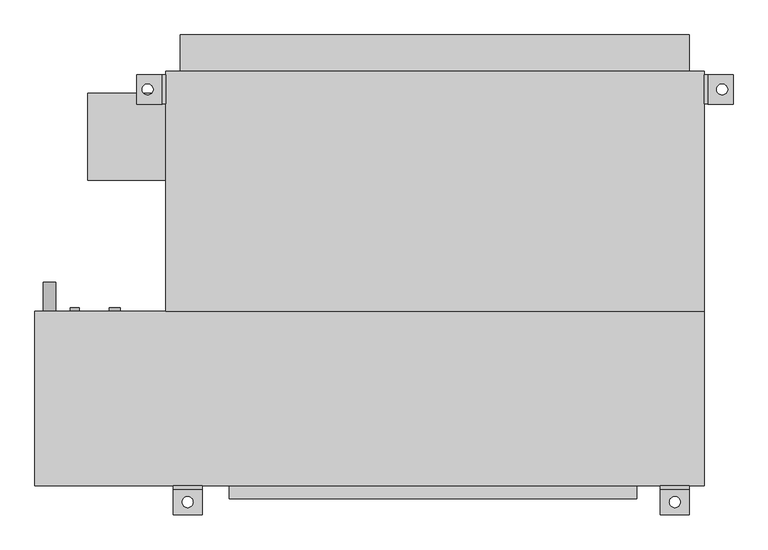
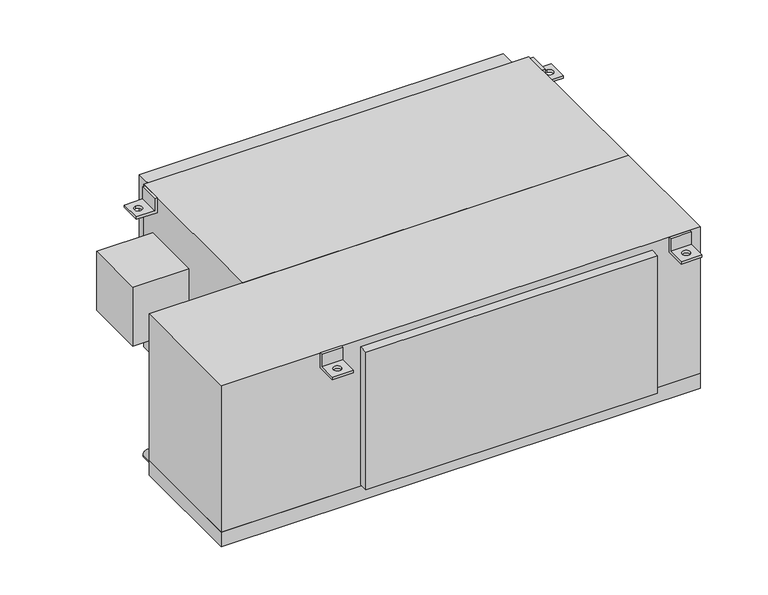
"""IFC4 building model written with IfcOpenShell, lengths in millimetres: proxy geometry, Concealed_High_Capacity_Horizontal_Fan_Coil_Unit_With_Plenum_-_42DCA_-_CARRIER_-_4-Pipe_ValveEnclosure_LH_2022 : Size 12 - 277v/60Hz/1Ph - 6/2 Coil."""

from ifc_helpers import new_model, si_unit, point, frame, frame_2d, origin, place, context, project, spatial, polyline, circle_curve, trimmed, segment, composite_curve, outline, extrude, source, transform, mapped, element, save
from ifc_brep_helpers import plane_surface, revolved_surface, advanced_brep


def mechanical_equipment_f5be78a4(model_context):
    return source(origin(), model_context, "Body", "SolidModel", [
        advanced_brep(
        [(596.9, -390.525, 0.0), (596.9, -396.875, 0.0), (596.9, -396.875, -31.75), (596.9, -441.325, -31.75), (596.9, -441.325, -38.1), (596.9, -390.525, -38.1), (546.1, -390.525, 0.0), (546.1, -390.525, -38.1), (546.1, -441.325, -38.1), (546.1, -441.325, -31.75), (546.1, -396.875, -31.75), (546.1, -396.875, 0.0), (561.975, -419.1, -31.75), (581.025, -419.1, -31.75), (581.025, -419.1, -38.1), (561.975, -419.1, -38.1)],
        [
            (0, 1),
            (1, 2),
            (2, 3),
            (3, 4),
            (4, 5),
            (5, 0),
            (6, 7),
            (7, 8),
            (8, 9),
            (9, 10),
            (10, 11),
            (11, 6),
            (0, 6),
            (11, 1),
            (10, 2),
            (9, 3),
            (12, 13, circle_curve(frame((571.5, -419.1, -31.75), z_axis=(0.0, 0.0, -1.0), x_axis=(1.0, 0.0, 0.0)), 9.525)),
            (13, 12, circle_curve(frame((571.5, -419.1, -31.75), z_axis=(0.0, 0.0, -1.0), x_axis=(1.0, 0.0, 0.0)), 9.525)),
            (8, 4),
            (7, 5),
            (14, 15, circle_curve(frame((571.5, -419.1, -38.1), z_axis=(0.0, 0.0, 1.0), x_axis=(1.0, 0.0, 0.0)), 9.525)),
            (15, 14, circle_curve(frame((571.5, -419.1, -38.1), z_axis=(0.0, 0.0, 1.0), x_axis=(1.0, 0.0, 0.0)), 9.525)),
            (12, 15),
            (14, 13),
        ],
        [
            plane_surface(frame((596.9, -396.875, 0.0), z_axis=(1.0, 0.0, 0.0), x_axis=(0.0, -1.0, 0.0))),
            plane_surface(frame((546.1, -396.875, 0.0), z_axis=(-1.0, 0.0, 0.0), x_axis=(0.0, 1.0, 0.0))),
            plane_surface(frame((596.9, -390.525, 0.0), z_axis=(0.0, 0.0, 1.0), x_axis=(-1.0, 0.0, 0.0))),
            plane_surface(frame((596.9, -396.875, 0.0), z_axis=(0.0, -1.0, 0.0), x_axis=(-1.0, 0.0, 0.0))),
            plane_surface(frame((596.9, -396.875, -31.75), z_axis=(0.0, 0.0, 1.0), x_axis=(-1.0, 0.0, 0.0))),
            plane_surface(frame((596.9, -441.325, -31.75), z_axis=(0.0, -1.0, 0.0), x_axis=(-1.0, 0.0, 0.0))),
            plane_surface(frame((596.9, -441.325, -38.1), z_axis=(0.0, 0.0, -1.0), x_axis=(-1.0, 0.0, 0.0))),
            plane_surface(frame((596.9, -390.525, -38.1), z_axis=(0.0, 1.0, 0.0), x_axis=(-1.0, 0.0, 0.0))),
            revolved_surface(polyline([(581.025, -419.1, -38.1), (581.025, -419.1, -31.75)]), (571.5, -419.1, -31.75), (0.0, 0.0, -1.0)),
        ],
        [
            (0, [[1, 2, 3, 4, 5, 6]]),
            (1, [[7, 8, 9, 10, 11, 12]]),
            (2, [[-1, 13, -12, 14]]),
            (3, [[-2, -14, -11, 15]]),
            (4, [[-3, -15, -10, 16], [17, 18]]),
            (5, [[-4, -16, -9, 19]]),
            (6, [[-5, -19, -8, 20], [21, 22]]),
            (7, [[-6, -20, -7, -13]]),
            (8, [[23, -21, 24, -17]]),
            (8, [[-23, -18, -24, -22]]),
        ],
    ),
        advanced_brep(
        [(-254.0, -390.525, -38.1), (-254.0, -390.525, 0.0), (-254.0, -396.875, 0.0), (-254.0, -396.875, -31.75), (-254.0, -441.325, -31.75), (-254.0, -441.325, -38.1), (-304.8, -390.525, -38.1), (-304.8, -441.325, -38.1), (-304.8, -441.325, -31.75), (-304.8, -396.875, -31.75), (-304.8, -396.875, 0.0), (-304.8, -390.525, 0.0), (-288.925, -419.1, -31.75), (-269.875, -419.1, -31.75), (-269.875, -419.1, -38.1), (-288.925, -419.1, -38.1)],
        [
            (0, 1),
            (1, 2),
            (2, 3),
            (3, 4),
            (4, 5),
            (5, 0),
            (6, 7),
            (7, 8),
            (8, 9),
            (9, 10),
            (10, 11),
            (11, 6),
            (0, 6),
            (11, 1),
            (10, 2),
            (9, 3),
            (8, 4),
            (12, 13, circle_curve(frame((-279.4, -419.1, -31.75), z_axis=(0.0, 0.0, -1.0), x_axis=(1.0, 0.0, 0.0)), 9.525)),
            (13, 12, circle_curve(frame((-279.4, -419.1, -31.75), z_axis=(0.0, 0.0, -1.0), x_axis=(1.0, 0.0, 0.0)), 9.525)),
            (7, 5),
            (14, 15, circle_curve(frame((-279.4, -419.1, -38.1), z_axis=(0.0, 0.0, 1.0), x_axis=(1.0, 0.0, 0.0)), 9.525)),
            (15, 14, circle_curve(frame((-279.4, -419.1, -38.1), z_axis=(0.0, 0.0, 1.0), x_axis=(1.0, 0.0, 0.0)), 9.525)),
            (12, 15),
            (14, 13),
        ],
        [
            plane_surface(frame((-254.0, -390.525, -38.1), z_axis=(1.0, 0.0, 0.0), x_axis=(0.0, 0.0, 1.0))),
            plane_surface(frame((-304.8, -390.525, -38.1), z_axis=(-1.0, 0.0, 0.0), x_axis=(0.0, 0.0, -1.0))),
            plane_surface(frame((-254.0, -390.525, -38.1), z_axis=(0.0, 1.0, 0.0), x_axis=(-1.0, 0.0, 0.0))),
            plane_surface(frame((-254.0, -390.525, 0.0), z_axis=(0.0, 0.0, 1.0), x_axis=(-1.0, 0.0, 0.0))),
            plane_surface(frame((-254.0, -396.875, 0.0), z_axis=(0.0, -1.0, 0.0), x_axis=(-1.0, 0.0, 0.0))),
            plane_surface(frame((-254.0, -396.875, -31.75), z_axis=(0.0, 0.0, 1.0), x_axis=(-1.0, 0.0, 0.0))),
            plane_surface(frame((-254.0, -441.325, -31.75), z_axis=(0.0, -1.0, 0.0), x_axis=(-1.0, 0.0, 0.0))),
            plane_surface(frame((-254.0, -441.325, -38.1), z_axis=(0.0, 0.0, -1.0), x_axis=(-1.0, 0.0, 0.0))),
            revolved_surface(polyline([(-269.875, -419.1, -38.1), (-269.875, -419.1, -31.75)]), (-279.4, -419.1, -31.75), (0.0, 0.0, -1.0)),
        ],
        [
            (0, [[1, 2, 3, 4, 5, 6]]),
            (1, [[7, 8, 9, 10, 11, 12]]),
            (2, [[-1, 13, -12, 14]]),
            (3, [[-2, -14, -11, 15]]),
            (4, [[-3, -15, -10, 16]]),
            (5, [[-4, -16, -9, 17], [18, 19]]),
            (6, [[-5, -17, -8, 20]]),
            (7, [[-6, -20, -7, -13], [21, 22]]),
            (8, [[23, -21, 24, -18]]),
            (8, [[-23, -19, -24, -22]]),
        ],
    ),
        extrude(outline(composite_curve([segment(trimmed(circle_curve(frame_2d((-400.05, -520.7)), 11.1125), [point((-400.05, -531.8125))], [point((-400.05, -509.5875))], False, "CARTESIAN"), True, "CONTINUOUS"), segment(trimmed(circle_curve(frame_2d((-400.05, -520.7)), 11.1125), [point((-400.05, -509.5875))], [point((-400.05, -531.8125))], False, "CARTESIAN"), True, "CONTINUOUS")], self_intersect=False)), frame((0.0, -85.725, 0.0), z_axis=(0.0, 1.0, 0.0), x_axis=(0.0, 0.0, 1.0)), (0.0, 0.0, 1.0), 50.8),
        extrude(outline(composite_curve([segment(trimmed(circle_curve(frame_2d((-44.45, -406.4)), 9.525), [point((-44.45, -415.925))], [point((-44.45, -396.875))], False, "CARTESIAN"), True, "CONTINUOUS"), segment(trimmed(circle_curve(frame_2d((-44.45, -406.4)), 9.525), [point((-44.45, -396.875))], [point((-44.45, -415.925))], False, "CARTESIAN"), True, "CONTINUOUS")], self_intersect=False)), frame((0.0, -85.725, 0.0), z_axis=(0.0, 1.0, 0.0), x_axis=(0.0, 0.0, 1.0)), (0.0, 0.0, 1.0), 6.35),
        extrude(outline(composite_curve([segment(trimmed(circle_curve(frame_2d((-276.225, -406.4)), 9.525), [point((-276.225, -415.925))], [point((-276.225, -396.875))], False, "CARTESIAN"), True, "CONTINUOUS"), segment(trimmed(circle_curve(frame_2d((-276.225, -406.4)), 9.525), [point((-276.225, -396.875))], [point((-276.225, -415.925))], False, "CARTESIAN"), True, "CONTINUOUS")], self_intersect=False)), frame((0.0, -85.725, 0.0), z_axis=(0.0, 1.0, 0.0), x_axis=(0.0, 0.0, 1.0)), (0.0, 0.0, 1.0), 6.35),
        extrude(outline(composite_curve([segment(trimmed(circle_curve(frame_2d((-69.85, -476.25)), 7.9375), [point((-69.85, -484.1875))], [point((-69.85, -468.3125))], False, "CARTESIAN"), True, "CONTINUOUS"), segment(trimmed(circle_curve(frame_2d((-69.85, -476.25)), 7.9375), [point((-69.85, -468.3125))], [point((-69.85, -484.1875))], False, "CARTESIAN"), True, "CONTINUOUS")], self_intersect=False)), frame((0.0, -85.725, 0.0), z_axis=(0.0, 1.0, 0.0), x_axis=(0.0, 0.0, 1.0)), (0.0, 0.0, 1.0), 6.35),
        extrude(outline(composite_curve([segment(trimmed(circle_curve(frame_2d((-285.75, -476.25)), 7.9375), [point((-285.75, -484.1875))], [point((-285.75, -468.3125))], False, "CARTESIAN"), True, "CONTINUOUS"), segment(trimmed(circle_curve(frame_2d((-285.75, -476.25)), 7.9375), [point((-285.75, -468.3125))], [point((-285.75, -484.1875))], False, "CARTESIAN"), True, "CONTINUOUS")], self_intersect=False)), frame((0.0, -85.725, 0.0), z_axis=(0.0, 1.0, 0.0), x_axis=(0.0, 0.0, 1.0)), (0.0, 0.0, 1.0), 6.35),
        advanced_brep(
        [(-317.5, 327.025, -38.1), (-368.3, 327.025, -38.1), (-368.3, 327.025, -31.75), (-323.85, 327.025, -31.75), (-323.85, 327.025, 0.0), (-317.5, 327.025, 0.0), (-317.5, 276.225, -38.1), (-317.5, 276.225, 0.0), (-323.85, 276.225, 0.0), (-323.85, 276.225, -31.75), (-368.3, 276.225, -31.75), (-368.3, 276.225, -38.1), (-349.25, 292.1, -38.1), (-349.25, 311.15, -38.1), (-349.25, 311.15, -31.75), (-349.25, 292.1, -31.75)],
        [
            (0, 1),
            (1, 2),
            (2, 3),
            (3, 4),
            (4, 5),
            (5, 0),
            (6, 7),
            (7, 8),
            (8, 9),
            (9, 10),
            (10, 11),
            (11, 6),
            (0, 6),
            (11, 1),
            (12, 13, circle_curve(frame((-349.25, 301.625, -38.1), z_axis=(0.0, 0.0, 1.0), x_axis=(0.0, -1.0, 0.0)), 9.525)),
            (13, 12, circle_curve(frame((-349.25, 301.625, -38.1), z_axis=(0.0, 0.0, 1.0), x_axis=(0.0, -1.0, 0.0)), 9.525)),
            (10, 2),
            (9, 3),
            (14, 15, circle_curve(frame((-349.25, 301.625, -31.75), z_axis=(0.0, 0.0, -1.0), x_axis=(0.0, -1.0, 0.0)), 9.525)),
            (15, 14, circle_curve(frame((-349.25, 301.625, -31.75), z_axis=(0.0, 0.0, -1.0), x_axis=(0.0, -1.0, 0.0)), 9.525)),
            (8, 4),
            (7, 5),
            (14, 13),
            (12, 15),
        ],
        [
            plane_surface(frame((-317.5, 327.025, -38.1), z_axis=(0.0, 1.0, 0.0), x_axis=(-1.0, 0.0, 0.0))),
            plane_surface(frame((-317.5, 276.225, -38.1), z_axis=(0.0, -1.0, 0.0), x_axis=(1.0, 0.0, 0.0))),
            plane_surface(frame((-317.5, 327.025, -38.1), z_axis=(0.0, 0.0, -1.0), x_axis=(0.0, -1.0, 0.0))),
            plane_surface(frame((-368.3, 327.025, -38.1), z_axis=(-1.0, 0.0, 0.0), x_axis=(0.0, -1.0, 0.0))),
            plane_surface(frame((-368.3, 327.025, -31.75), z_axis=(0.0, 0.0, 1.0), x_axis=(0.0, -1.0, 0.0))),
            plane_surface(frame((-323.85, 327.025, -31.75), z_axis=(-1.0, 0.0, 0.0), x_axis=(0.0, -1.0, 0.0))),
            plane_surface(frame((-323.85, 327.025, 0.0), z_axis=(0.0, 0.0, 1.0), x_axis=(0.0, -1.0, 0.0))),
            plane_surface(frame((-317.5, 327.025, 0.0), z_axis=(1.0, 0.0, 0.0), x_axis=(0.0, -1.0, 0.0))),
            revolved_surface(polyline([(-349.25, 292.1, -38.1), (-349.25, 292.1, -31.75)]), (-349.25, 301.625, -31.75), (0.0, 0.0, -1.0)),
        ],
        [
            (0, [[1, 2, 3, 4, 5, 6]]),
            (1, [[7, 8, 9, 10, 11, 12]]),
            (2, [[-1, 13, -12, 14], [15, 16]]),
            (3, [[-2, -14, -11, 17]]),
            (4, [[-3, -17, -10, 18], [19, 20]]),
            (5, [[-4, -18, -9, 21]]),
            (6, [[-5, -21, -8, 22]]),
            (7, [[-6, -22, -7, -13]]),
            (8, [[23, -15, 24, -19]]),
            (8, [[-23, -20, -24, -16]]),
        ],
    ),
        advanced_brep(
        [(622.3, 327.025, -38.1), (622.3, 327.025, 0.0), (628.65, 327.025, 0.0), (628.65, 327.025, -31.75), (673.1, 327.025, -31.75), (673.1, 327.025, -38.1), (622.3, 276.225, -38.1), (673.1, 276.225, -38.1), (673.1, 276.225, -31.75), (628.65, 276.225, -31.75), (628.65, 276.225, 0.0), (622.3, 276.225, 0.0), (654.05, 311.15, -31.75), (654.05, 292.1, -31.75), (654.05, 292.1, -38.1), (654.05, 311.15, -38.1)],
        [
            (0, 1),
            (1, 2),
            (2, 3),
            (3, 4),
            (4, 5),
            (5, 0),
            (6, 7),
            (7, 8),
            (8, 9),
            (9, 10),
            (10, 11),
            (11, 6),
            (0, 6),
            (11, 1),
            (10, 2),
            (9, 3),
            (8, 4),
            (12, 13, circle_curve(frame((654.05, 301.625, -31.75), z_axis=(0.0, 0.0, -1.0), x_axis=(0.0, -1.0, 0.0)), 9.525)),
            (13, 12, circle_curve(frame((654.05, 301.625, -31.75), z_axis=(0.0, 0.0, -1.0), x_axis=(0.0, -1.0, 0.0)), 9.525)),
            (7, 5),
            (14, 15, circle_curve(frame((654.05, 301.625, -38.1), z_axis=(0.0, 0.0, 1.0), x_axis=(0.0, -1.0, 0.0)), 9.525)),
            (15, 14, circle_curve(frame((654.05, 301.625, -38.1), z_axis=(0.0, 0.0, 1.0), x_axis=(0.0, -1.0, 0.0)), 9.525)),
            (12, 15),
            (14, 13),
        ],
        [
            plane_surface(frame((-317.5, 327.025, -38.1), z_axis=(0.0, 1.0, 0.0), x_axis=(-1.0, 0.0, 0.0))),
            plane_surface(frame((-317.5, 276.225, -38.1), z_axis=(0.0, -1.0, 0.0), x_axis=(1.0, 0.0, 0.0))),
            plane_surface(frame((622.3, 327.025, -38.1), z_axis=(-1.0, 0.0, 0.0), x_axis=(0.0, -1.0, 0.0))),
            plane_surface(frame((622.3, 327.025, 0.0), z_axis=(0.0, 0.0, 1.0), x_axis=(0.0, -1.0, 0.0))),
            plane_surface(frame((628.65, 327.025, 0.0), z_axis=(1.0, 0.0, 0.0), x_axis=(0.0, -1.0, 0.0))),
            plane_surface(frame((628.65, 327.025, -31.75), z_axis=(0.0, 0.0, 1.0), x_axis=(0.0, -1.0, 0.0))),
            plane_surface(frame((673.1, 327.025, -31.75), z_axis=(1.0, 0.0, 0.0), x_axis=(0.0, -1.0, 0.0))),
            plane_surface(frame((673.1, 327.025, -38.1), z_axis=(0.0, 0.0, -1.0), x_axis=(0.0, -1.0, 0.0))),
            revolved_surface(polyline([(654.05, 292.1, -38.1), (654.05, 292.1, -31.75)]), (654.05, 301.625, -31.75), (0.0, 0.0, -1.0)),
        ],
        [
            (0, [[1, 2, 3, 4, 5, 6]]),
            (1, [[7, 8, 9, 10, 11, 12]]),
            (2, [[-1, 13, -12, 14]]),
            (3, [[-2, -14, -11, 15]]),
            (4, [[-3, -15, -10, 16]]),
            (5, [[-4, -16, -9, 17], [18, 19]]),
            (6, [[-5, -17, -8, 20]]),
            (7, [[-6, -20, -7, -13], [21, 22]]),
            (8, [[23, -21, 24, -18]]),
            (8, [[-23, -19, -24, -22]]),
        ],
    ),
        extrude(outline(polyline([(-292.1, 396.875), (596.9, 396.875), (596.9, 333.375), (-292.1, 333.375), (-292.1, 396.875)])), frame((0.0, 0.0, -377.825), z_axis=(0.0, 0.0, 1.0), x_axis=(1.0, 0.0, 0.0)), (0.0, 0.0, 1.0), 355.6),
        extrude(outline(polyline([(-454.025, 142.875), (-454.025, 295.275), (-317.5, 295.275), (-317.5, 142.875), (-454.025, 142.875)])), frame((0.0, 0.0, -254.0), z_axis=(0.0, 0.0, 1.0), x_axis=(1.0, 0.0, 0.0)), (0.0, 0.0, 1.0), 152.4),
        extrude(outline(polyline([(504.825, -412.75), (-206.375, -412.75), (-206.375, -390.525), (504.825, -390.525), (504.825, -412.75)])), frame((0.0, 0.0, -374.65), z_axis=(0.0, 0.0, 1.0), x_axis=(1.0, 0.0, 0.0)), (0.0, 0.0, 1.0), 355.6),
        extrude(outline(polyline([(622.3, -85.725), (-317.5, -85.725), (-317.5, 333.375), (622.3, 333.375), (622.3, -85.725)])), frame((0.0, 0.0, -419.1), z_axis=(0.0, 0.0, 1.0), x_axis=(1.0, 0.0, 0.0)), (0.0, 0.0, 1.0), 419.1),
        extrude(outline(polyline([(622.3, -85.725), (622.3, -390.525), (-546.1, -390.525), (-546.1, -85.725), (622.3, -85.725)])), frame((0.0, 0.0, -377.825), z_axis=(0.0, 0.0, 1.0), x_axis=(1.0, 0.0, 0.0)), (0.0, 0.0, 1.0), 377.825),
        extrude(outline(polyline([(622.3, -85.725), (622.3, -390.525), (-546.1, -390.525), (-546.1, -85.725), (622.3, -85.725)])), frame((0.0, 0.0, -415.925), z_axis=(0.0, 0.0, 1.0), x_axis=(1.0, 0.0, 0.0)), (0.0, 0.0, 1.0), 38.1),
    ])


if __name__ == "__main__":
    model = new_model("IFC4")
    model_context = context("Model", 3, world=origin())
    ifc_project = project(units=[si_unit("LENGTHUNIT", "METRE", prefix="MILLI")], contexts=[model_context])
    site = spatial("IfcSite", under=ifc_project)
    building = spatial("IfcBuilding", under=site)
    placement = place(None, origin())
    mechanical_equipment_shape = mechanical_equipment_f5be78a4(model_context)
    element("IfcBuildingElementProxy", 1, Name="Concealed_High_Capacity_Horizontal_Fan_Coil_Unit_With_Plenum_-_42DCA_-_CARRIER_-_4-Pipe_ValveEnclosure_LH_2022 : Size 12 - 277v/60Hz/1Ph - 6/2 Coil", ObjectType="Concealed_High_Capacity_Horizontal_Fan_Coil_Unit_With_Plenum_-_42DCA_-_CARRIER_-_4-Pipe_ValveEnclosure_LH_2022 : Size 12 - 277v/60Hz/1Ph - 6/2 Coil", at=placement, inside=building, context=model_context, shape_type="MappedRepresentation", body=[
        mapped(mechanical_equipment_shape, transform((0.0, 0.0, 0.0), x_axis=(1.0, 0.0, 0.0), y_axis=(0.0, 1.0, 0.0), z_axis=(0.0, 0.0, 1.0))),
    ])
    save(model, "model.ifc")
